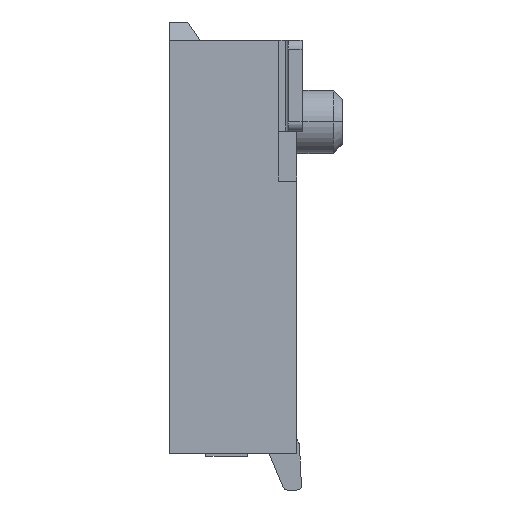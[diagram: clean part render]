
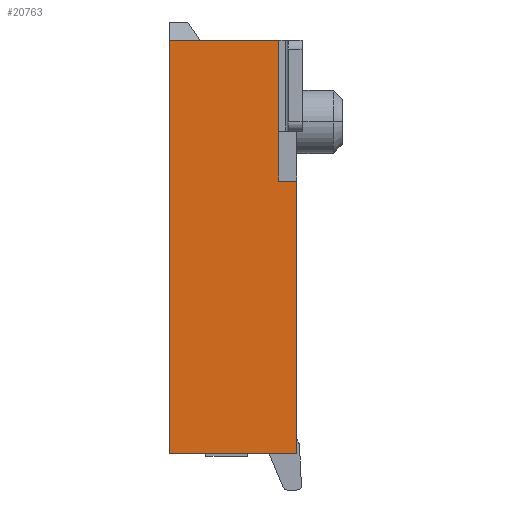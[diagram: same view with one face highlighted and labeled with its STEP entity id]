
A CAD part, left-side view. The second image highlights one B-rep face of the part: STEP entity #20763.
In plain terms, the highlighted planar face has unit normal (-1, 0, 0).
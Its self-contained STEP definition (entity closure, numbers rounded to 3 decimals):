
#29=DIRECTION('',(0.,-1.,0.));
#30=VECTOR('',#29,0.2);
#31=CARTESIAN_POINT('',(-10.5,-0.5,3.));
#32=LINE('',#31,#30);
#33=DIRECTION('',(0.,0.,-1.));
#34=VECTOR('',#33,3.);
#35=CARTESIAN_POINT('',(-10.5,-0.7,3.));
#36=LINE('',#35,#34);
#41=DIRECTION('',(0.,-1.,0.));
#42=VECTOR('',#41,1.4);
#43=CARTESIAN_POINT('',(-10.5,0.7,0.));
#44=LINE('',#43,#42);
#467=DIRECTION('',(0.,0.,-1.));
#468=VECTOR('',#467,4.55);
#469=CARTESIAN_POINT('',(-10.5,0.7,4.55));
#470=LINE('',#469,#468);
#818=DIRECTION('',(0.,0.,1.));
#819=VECTOR('',#818,1.55);
#820=CARTESIAN_POINT('',(-10.5,-0.5,3.));
#821=LINE('',#820,#819);
#1317=DIRECTION('',(0.,1.,0.));
#1318=VECTOR('',#1317,1.2);
#1319=CARTESIAN_POINT('',(-10.5,-0.5,4.55));
#1320=LINE('',#1319,#1318);
#15756=CARTESIAN_POINT('',(-10.5,-0.7,3.));
#15758=VERTEX_POINT('',#15756);
#15781=CARTESIAN_POINT('',(-10.5,-0.7,0.));
#15782=VERTEX_POINT('',#15781);
#15817=CARTESIAN_POINT('',(-10.5,-0.5,3.));
#15819=VERTEX_POINT('',#15817);
#15824=CARTESIAN_POINT('',(-10.5,0.7,0.));
#15825=VERTEX_POINT('',#15824);
#15826=CARTESIAN_POINT('',(-10.5,0.7,4.55));
#15827=VERTEX_POINT('',#15826);
#15828=CARTESIAN_POINT('',(-10.5,-0.5,4.55));
#15829=VERTEX_POINT('',#15828);
#20746=CARTESIAN_POINT('',(-10.5,0.,2.275));
#20747=DIRECTION('',(1.,0.,0.));
#20748=DIRECTION('',(0.,0.,1.));
#20749=AXIS2_PLACEMENT_3D('',#20746,#20747,#20748);
#20750=PLANE('',#20749);
#20751=ORIENTED_EDGE('',*,*,#20737,.T.);
#20752=ORIENTED_EDGE('',*,*,#20710,.T.);
#20754=ORIENTED_EDGE('',*,*,#20753,.F.);
#20756=ORIENTED_EDGE('',*,*,#20755,.F.);
#20758=ORIENTED_EDGE('',*,*,#20757,.F.);
#20760=ORIENTED_EDGE('',*,*,#20759,.F.);
#20761=EDGE_LOOP('',(#20751,#20752,#20754,#20756,#20758,#20760));
#20762=FACE_OUTER_BOUND('',#20761,.F.);
#20710=EDGE_CURVE('',#15758,#15782,#36,.T.);
#20737=EDGE_CURVE('',#15819,#15758,#32,.T.);
#20753=EDGE_CURVE('',#15825,#15782,#44,.T.);
#20755=EDGE_CURVE('',#15827,#15825,#470,.T.);
#20757=EDGE_CURVE('',#15829,#15827,#1320,.T.);
#20759=EDGE_CURVE('',#15819,#15829,#821,.T.);
#20763=ADVANCED_FACE('',(#20762),#20750,.F.);
